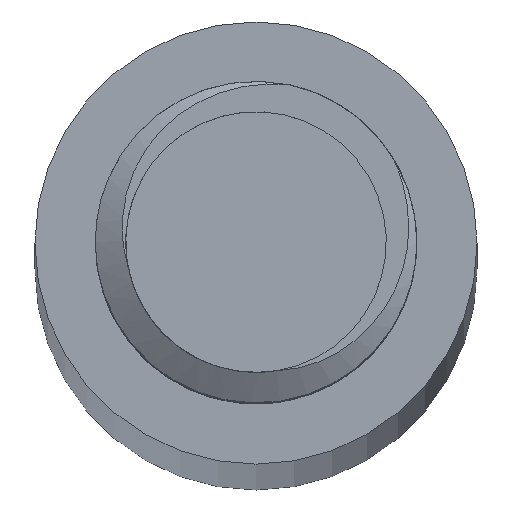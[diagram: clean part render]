
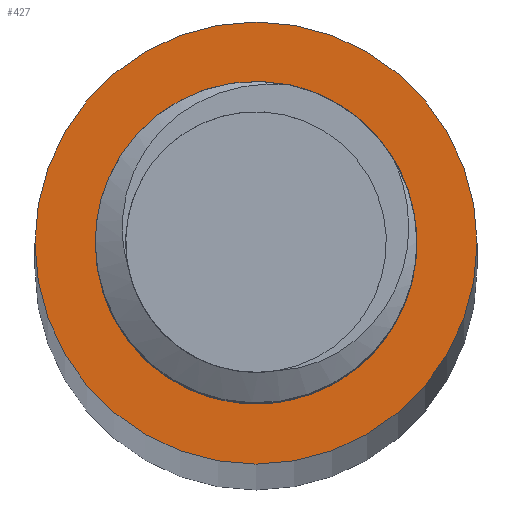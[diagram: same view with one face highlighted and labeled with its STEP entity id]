
A CAD part, top view. The second image highlights one B-rep face of the part: STEP entity #427.
In plain terms, the highlighted planar face has unit normal (0, 0, 1).
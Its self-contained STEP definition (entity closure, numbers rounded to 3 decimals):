
#12 = CARTESIAN_POINT ( 'NONE',  ( -1.265, 1.567, -17.5 ) ) ;
#98 = ORIENTED_EDGE ( 'NONE', *, *, #1996, .F. ) ;
#119 = VERTEX_POINT ( 'NONE', #358 ) ;
#128 = CARTESIAN_POINT ( 'NONE',  ( 1.895, -0.651, -17.5 ) ) ;
#142 = CARTESIAN_POINT ( 'NONE',  ( -2., 0., -17.5 ) ) ;
#160 = CARTESIAN_POINT ( 'NONE',  ( 1.146, -1.643, -17.5 ) ) ;
#254 = CARTESIAN_POINT ( 'NONE',  ( 0.249, 1.988, -17.5 ) ) ;
#268 = CARTESIAN_POINT ( 'NONE',  ( -0.438, 1.965, -17.5 ) ) ;
#270 = AXIS2_PLACEMENT_3D ( 'NONE', #1974, #1036, #2961 ) ;
#347 = CARTESIAN_POINT ( 'NONE',  ( -2., 0., -17.5 ) ) ;
#358 = CARTESIAN_POINT ( 'NONE',  ( -2.75, 0., -17.5 ) ) ;
#415 = CARTESIAN_POINT ( 'NONE',  ( -1.123, -1.659, -17.5 ) ) ;
#419 = DIRECTION ( 'NONE',  ( 0., 0., 1. ) ) ;
#427 = ADVANCED_FACE ( 'NONE', ( #2751, #1960 ), #2946, .T. ) ;
#432 = CARTESIAN_POINT ( 'NONE',  ( 1.564, -1.252, -17.5 ) ) ;
#512 = CARTESIAN_POINT ( 'NONE',  ( 0.905, 1.787, -17.5 ) ) ;
#602 = CIRCLE ( 'NONE', #1426, 2.75 ) ;
#604 = VERTEX_POINT ( 'NONE', #347 ) ;
#638 = EDGE_LOOP ( 'NONE', ( #1381, #1257 ) ) ;
#640 = CARTESIAN_POINT ( 'NONE',  ( -1.96, -0.459, -17.5 ) ) ;
#645 = CARTESIAN_POINT ( 'NONE',  ( 0., 0., -17.5 ) ) ;
#674 = CARTESIAN_POINT ( 'NONE',  ( 1.993, -0.203, -17.5 ) ) ;
#741 = CARTESIAN_POINT ( 'NONE',  ( 1.834, 0.806, -17.5 ) ) ;
#771 = CARTESIAN_POINT ( 'NONE',  ( 0.362, 1.97, -17.5 ) ) ;
#862 = AXIS2_PLACEMENT_3D ( 'NONE', #645, #419, #3136 ) ;
#886 = CARTESIAN_POINT ( 'NONE',  ( -2., -0.232, -17.5 ) ) ;
#933 = CARTESIAN_POINT ( 'NONE',  ( -1.391, -1.442, -17.5 ) ) ;
#963 = CARTESIAN_POINT ( 'NONE',  ( 0., 0., -17.5 ) ) ;
#1026 = AXIS2_PLACEMENT_3D ( 'NONE', #963, #1946, #2963 ) ;
#1036 = DIRECTION ( 'NONE',  ( 0., 0., 1. ) ) ;
#1107 = CARTESIAN_POINT ( 'NONE',  ( 1.929, -0.542, -17.5 ) ) ;
#1125 = CARTESIAN_POINT ( 'NONE',  ( -1.69, -1.094, -17.5 ) ) ;
#1131 = CARTESIAN_POINT ( 'NONE',  ( 0., 0., -17.5 ) ) ;
#1144 = CARTESIAN_POINT ( 'NONE',  ( -1.471, -1.36, -17.5 ) ) ;
#1154 = VERTEX_POINT ( 'NONE', #1606 ) ;
#1161 = CARTESIAN_POINT ( 'NONE',  ( 1.808, -0.863, -17.5 ) ) ;
#1178 = CARTESIAN_POINT ( 'NONE',  ( 0.186, -1.995, -17.5 ) ) ;
#1182 = DIRECTION ( 'NONE',  ( 0., 0., -1. ) ) ;
#1192 = CARTESIAN_POINT ( 'NONE',  ( 1.877, 0.7, -17.5 ) ) ;
#1223 = CARTESIAN_POINT ( 'NONE',  ( 1.455, 1.378, -17.5 ) ) ;
#1236 = EDGE_CURVE ( 'NONE', #604, #1953, #2366, .T. ) ;
#1238 = CARTESIAN_POINT ( 'NONE',  ( -0.097, 2.001, -17.5 ) ) ;
#1251 = CARTESIAN_POINT ( 'NONE',  ( 1.945, 0.482, -17.5 ) ) ;
#1257 = ORIENTED_EDGE ( 'NONE', *, *, #1380, .F. ) ;
#1380 = EDGE_CURVE ( 'NONE', #1154, #119, #1594, .T. ) ;
#1381 = ORIENTED_EDGE ( 'NONE', *, *, #2275, .F. ) ;
#1384 = CARTESIAN_POINT ( 'NONE',  ( -0.272, -1.985, -17.5 ) ) ;
#1401 = CARTESIAN_POINT ( 'NONE',  ( -0.823, -1.826, -17.5 ) ) ;
#1426 = AXIS2_PLACEMENT_3D ( 'NONE', #1131, #1182, #2110 ) ;
#1482 = CARTESIAN_POINT ( 'NONE',  ( 0.694, 1.879, -17.5 ) ) ;
#1495 = CARTESIAN_POINT ( 'NONE',  ( 1.969, 0.368, -17.5 ) ) ;
#1594 = CIRCLE ( 'NONE', #1026, 2.75 ) ;
#1606 = CARTESIAN_POINT ( 'NONE',  ( 2.75, 0., -17.5 ) ) ;
#1622 = CARTESIAN_POINT ( 'NONE',  ( -0.498, -1.94, -17.5 ) ) ;
#1638 = CARTESIAN_POINT ( 'NONE',  ( 0.741, -1.861, -17.5 ) ) ;
#1673 = CARTESIAN_POINT ( 'NONE',  ( -1.804, -0.893, -17.5 ) ) ;
#1688 = CARTESIAN_POINT ( 'NONE',  ( 1.287, 1.535, -17.5 ) ) ;
#1739 = CARTESIAN_POINT ( 'NONE',  ( 1.998, 0.14, -17.5 ) ) ;
#1868 = CARTESIAN_POINT ( 'NONE',  ( -0.926, -1.777, -17.5 ) ) ;
#1885 = CARTESIAN_POINT ( 'NONE',  ( 1.05, -1.706, -17.5 ) ) ;
#1916 = CARTESIAN_POINT ( 'NONE',  ( 1.633, -1.161, -17.5 ) ) ;
#1932 = CARTESIAN_POINT ( 'NONE',  ( -1.075, 1.702, -17.5 ) ) ;
#1946 = DIRECTION ( 'NONE',  ( 0., 0., -1. ) ) ;
#1953 = VERTEX_POINT ( 'NONE', #2826 ) ;
#1960 = FACE_BOUND ( 'NONE', #2177, .T. ) ;
#1962 = CARTESIAN_POINT ( 'NONE',  ( 1.73, 1.011, -17.5 ) ) ;
#1974 = CARTESIAN_POINT ( 'NONE',  ( 0., 0., -17.5 ) ) ;
#1996 = EDGE_CURVE ( 'NONE', #1953, #604, #2820, .T. ) ;
#2089 = CARTESIAN_POINT ( 'NONE',  ( 0.524, -1.933, -17.5 ) ) ;
#2105 = CARTESIAN_POINT ( 'NONE',  ( -1.218, -1.591, -17.5 ) ) ;
#2110 = DIRECTION ( 'NONE',  ( 1., 0., 0. ) ) ;
#2139 = CARTESIAN_POINT ( 'NONE',  ( 1.978, -0.318, -17.5 ) ) ;
#2171 = CARTESIAN_POINT ( 'NONE',  ( 1.531, 1.292, -17.5 ) ) ;
#2177 = EDGE_LOOP ( 'NONE', ( #98, #2876 ) ) ;
#2216 = CARTESIAN_POINT ( 'NONE',  ( 0.019, 2.003, -17.5 ) ) ;
#2228 = CARTESIAN_POINT ( 'NONE',  ( 1.005, 1.733, -17.5 ) ) ;
#2275 = EDGE_CURVE ( 'NONE', #119, #1154, #602, .T. ) ;
#2331 = CARTESIAN_POINT ( 'NONE',  ( -0.159, -1.997, -17.5 ) ) ;
#2366 = B_SPLINE_CURVE_WITH_KNOTS ( 'NONE', 3,
 ( #142, #886, #640, #1673, #1125, #1144, #933, #2105, #415, #1868, #1401, #2367, #1622, #1384, #2331, #3132, #1178, #3147, #2089, #1638, #2868, #1885, #160, #2627, #2385, #432, #1916, #2898, #1161, #128, #1107, #2139, #674, #2466, #1739, #1495, #1251, #1192, #741, #1962, #2916, #2171, #1223, #1688, #2726, #2228, #512, #1482, #2479, #771, #254, #2216, #1238, #268, #2661, #1932, #12, #3164 ),
 .UNSPECIFIED., .F., .F.,
 ( 4, 2, 2, 2, 2, 2, 2, 2, 2, 2, 2, 2, 2, 2, 2, 2, 2, 2, 2, 2, 2, 2, 2, 2, 2, 2, 2, 2, 4 ),
 ( 0., 0.001, 0.001, 0.002, 0.002, 0.002, 0.003, 0.003, 0.003, 0.004, 0.004, 0.004, 0.005, 0.005, 0.005, 0.006, 0.006, 0.007, 0.007, 0.007, 0.008, 0.008, 0.008, 0.009, 0.009, 0.009, 0.01, 0.01, 0.011 ),
 .UNSPECIFIED. ) ;
#2367 = CARTESIAN_POINT ( 'NONE',  ( -0.61, -1.908, -17.5 ) ) ;
#2385 = CARTESIAN_POINT ( 'NONE',  ( 1.411, -1.422, -17.5 ) ) ;
#2466 = CARTESIAN_POINT ( 'NONE',  ( 2.003, 0.026, -17.5 ) ) ;
#2479 = CARTESIAN_POINT ( 'NONE',  ( 0.584, 1.916, -17.5 ) ) ;
#2627 = CARTESIAN_POINT ( 'NONE',  ( 1.326, -1.502, -17.5 ) ) ;
#2661 = CARTESIAN_POINT ( 'NONE',  ( -0.663, 1.901, -17.5 ) ) ;
#2726 = CARTESIAN_POINT ( 'NONE',  ( 1.196, 1.607, -17.5 ) ) ;
#2751 = FACE_OUTER_BOUND ( 'NONE', #638, .T. ) ;
#2820 = CIRCLE ( 'NONE', #862, 2. ) ;
#2826 = CARTESIAN_POINT ( 'NONE',  ( -1.427, 1.401, -17.5 ) ) ;
#2868 = CARTESIAN_POINT ( 'NONE',  ( 0.848, -1.815, -17.5 ) ) ;
#2876 = ORIENTED_EDGE ( 'NONE', *, *, #1236, .F. ) ;
#2898 = CARTESIAN_POINT ( 'NONE',  ( 1.755, -0.967, -17.5 ) ) ;
#2916 = CARTESIAN_POINT ( 'NONE',  ( 1.668, 1.109, -17.5 ) ) ;
#2946 = PLANE ( 'NONE',  #270 ) ;
#2961 = DIRECTION ( 'NONE',  ( 1., 0., 0. ) ) ;
#2963 = DIRECTION ( 'NONE',  ( 1., 0., 0. ) ) ;
#3132 = CARTESIAN_POINT ( 'NONE',  ( 0.07, -2.002, -17.5 ) ) ;
#3136 = DIRECTION ( 'NONE',  ( 1., 0., 0. ) ) ;
#3147 = CARTESIAN_POINT ( 'NONE',  ( 0.413, -1.96, -17.5 ) ) ;
#3164 = CARTESIAN_POINT ( 'NONE',  ( -1.427, 1.401, -17.5 ) ) ;
